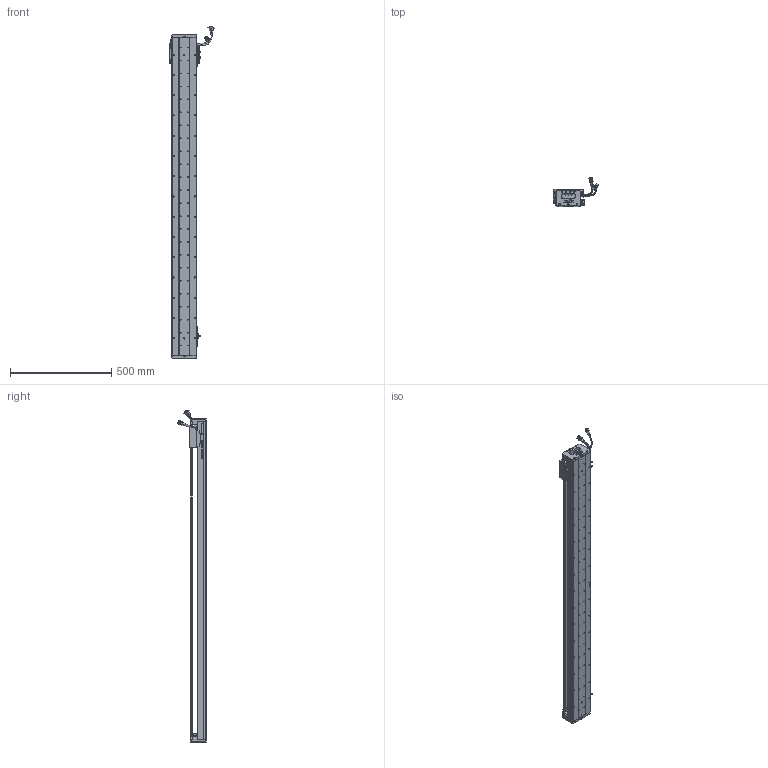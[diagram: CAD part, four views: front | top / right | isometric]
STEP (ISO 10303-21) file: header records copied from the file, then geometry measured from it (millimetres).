
FILE_DESCRIPTION (( 'STEP AP203' ), '1' );
FILE_NAME ('Z1-RY120D-1-L500-B-K.SLDASM_1400.step', '2021-05-17T03:47:19', ( '盈信电脑' ), ( '东莞市道滘镇水果街19号' ), 'SwSTEP 2.0', 'SolidWorks 2016', '' );
FILE_SCHEMA (( 'CONFIG_CONTROL_DESIGN' ));
Length unit declared in the file: millimetre
Products named in the file (37): Z-RY120D詩湍奻揤裔; Z1-RY120D-1-L500-B-K.SLDASM_1400; SEAL; HARNESS-Part-2; SCALE-Part-1; SHIELDPLATE; SCREW-M1.6-1; 140蚥薯蝶輸; Z-120詩湍傷裔啣; 120-Z-臏賑輸盄裔(21遴); HARNESS-Part-1; SCREW-M1.6; RY100FB-遵嫖萇覜茼え; SEAL-Part-1; PSLH080_PSLF2; SCALE; SCREW-M1.7-1; PBU_SHEET; Z1-RY120-500-倰第菁釱_1400; Z-RY120D詩湍狟揤裔; LABEL-Part-1; 672嫖萇羲壽假蚾釱; SCREW-M1.6-2; COVER; HARNESS; SCREW-M1.6-3; Z1-RY120铝滑块（21款）; Z1-RY120-L500詩湍100mm遵_1400; LABEL; 080黍杅芛假蚾釱21遴; HOLDER0; 覜茼ん672; COVER-Part-1; 榋妏寠巭燃_暯_M2_2; 140雄赽晤鎢ん堤盄; SCALE-Part-2; SCREW-M1.7
Assembly tree (43 placements, depth 4):
  Z1-RY120D-1-L500-B-K.SLDASM_1400
    Z1-RY120-500-倰第菁釱_1400
    覜茼ん672  x3
    672嫖萇羲壽假蚾釱  x2
    Z1-RY120铝滑块（21款）
    PSLH080_PSLF2
      SCALE
        SCALE-Part-1
        SCALE-Part-2
      HARNESS
        HARNESS-Part-1
        HARNESS-Part-2
      LABEL
        LABEL-Part-1
      COVER
        COVER-Part-1
      SEAL
        SEAL-Part-1
      榋妏寠巭燃_暯_M2_2
      SHIELDPLATE
      SCREW-M1.7
      SCREW-M1.7-1
      PBU_SHEET
      SCREW-M1.6
      SCREW-M1.6-1
      SCREW-M1.6-2
      SCREW-M1.6-3
      HOLDER0
    080黍杅芛假蚾釱21遴
    120-Z-臏賑輸盄裔(21遴)
    140雄赽晤鎢ん堤盄
    140蚥薯蝶輸  x2
    RY100FB-遵嫖萇覜茼え
    Z-120詩湍傷裔啣  x2
    Z-RY120D詩湍奻揤裔  x2
    Z-RY120D詩湍狟揤裔  x2
    Z1-RY120-L500詩湍100mm遵_1400
Bounding box: 222.86 x 140.94 x 1638.99 mm (x, y, z)
Volume: 3859228.9 mm3; surface area: 1370928.8 mm2
Topology: 38 solids, 38 shells, 3017 faces, 8342 edges, 5268 vertices
Faces by surface type: cylinder 1442, plane 1151, cone 302, torus 69, bspline 53
Entity records: 94819 total; most frequent: CARTESIAN_POINT 27040, ORIENTED_EDGE 13604, DIRECTION 12928, EDGE_CURVE 6802, AXIS2_PLACEMENT_3D 4730, VERTEX_POINT 4388, LINE 3468, VECTOR 3468
